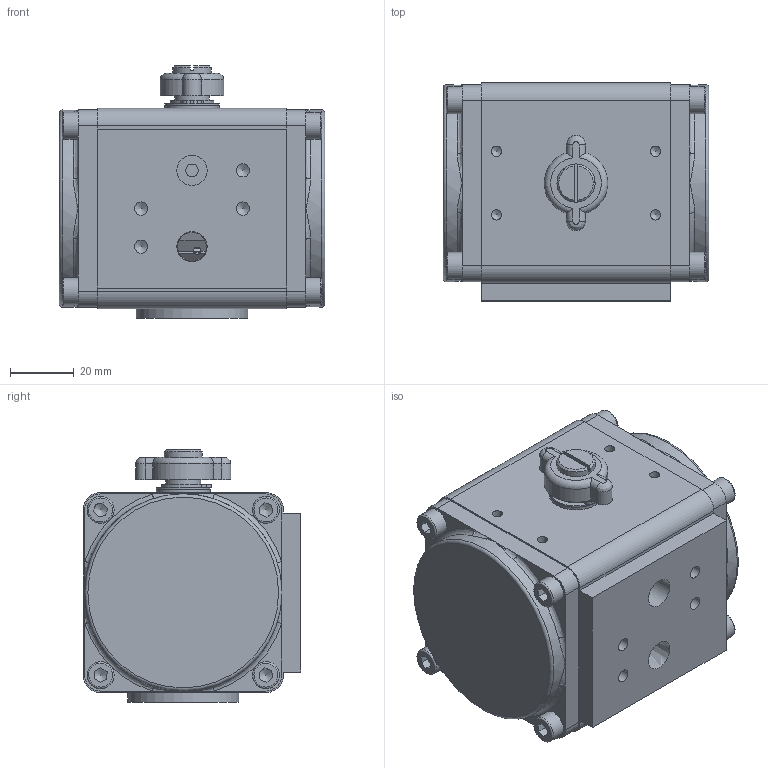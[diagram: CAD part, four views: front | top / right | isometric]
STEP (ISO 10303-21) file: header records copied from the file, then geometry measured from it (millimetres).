
FILE_DESCRIPTION((''),'2;1');
FILE_NAME('C:\Dokumente und Einstellungen\ko-p\Desktop\ENG-037572_Konturvereinfachung_1.stp','2010-11-25T09:55:25',('war'),(''),'Autodesk Inventor 2010','Autodesk Inventor 2010','');
FILE_SCHEMA(('AUTOMOTIVE_DESIGN { 1 0 10303 214 1 1 1 1 }'));
Length unit declared in the file: millimetre
Products named in the file (1): ENG-037572_Konturvereinfachung_1
Bounding box: 83.6 x 68.5 x 79.4 mm (x, y, z)
Surface area: 52771.8 mm2 (no closed solid volume)
Topology: 0 solids, 27 shells, 260 faces, 911 edges, 659 vertices
Faces by surface type: plane 131, cylinder 53, bspline 51, cone 13, torus 12
Full cylindrical faces by diameter (mm): 3.242 x2, 8.5 x8, 10.5 x1, 11 x1, 12 x1, 13.5 x1, 17 x2, 18 x1, 20 x1, 35 x1, 45.9 x2, 46 x1, 62 x2
Entity records: 10815 total; most frequent: CARTESIAN_POINT 3462, DIRECTION 1396, ORIENTED_EDGE 1228, EDGE_CURVE 786, VERTEX_POINT 619, AXIS2_PLACEMENT_3D 495, VECTOR 406, LINE 406
